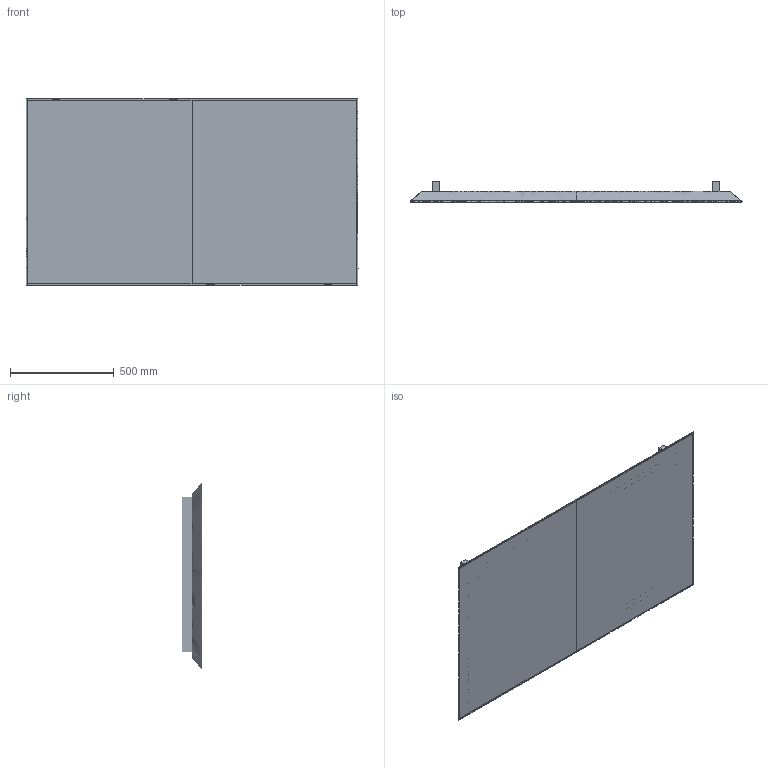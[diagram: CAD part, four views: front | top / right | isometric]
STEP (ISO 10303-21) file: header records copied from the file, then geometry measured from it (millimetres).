
FILE_DESCRIPTION(/* description */ (''),/* implementation_level */ '2;1');
FILE_NAME(/* name */ 'Mirage_TV_160x90_42p',/* time_stamp */ '2016-09-21T17:17:06+02:00',/* author */ (''),/* organization */ (''),/* preprocessor_version */ 'ST-DEVELOPER v10',/* originating_system */ '',/* authorisation */ '');
FILE_SCHEMA (('CONFIG_CONTROL_DESIGN'));
Length unit declared in the file: millimetre
Products named in the file (1): 1
Bounding box: 1600 x 95.5 x 900 mm (x, y, z)
Volume: 20393497.1 mm3; surface area: 4600109.6 mm2
Topology: 6 solids, 6 shells, 50 faces, 104 edges, 64 vertices
Faces by surface type: plane 32, bspline 18
Entity records: 4132 total; most frequent: CARTESIAN_POINT 3290, ORIENTED_EDGE 208, EDGE_CURVE 104, B_SPLINE_CURVE_WITH_KNOTS 96, VERTEX_POINT 64, EDGE_LOOP 54, ADVANCED_FACE 50, FACE_OUTER_BOUND 50
